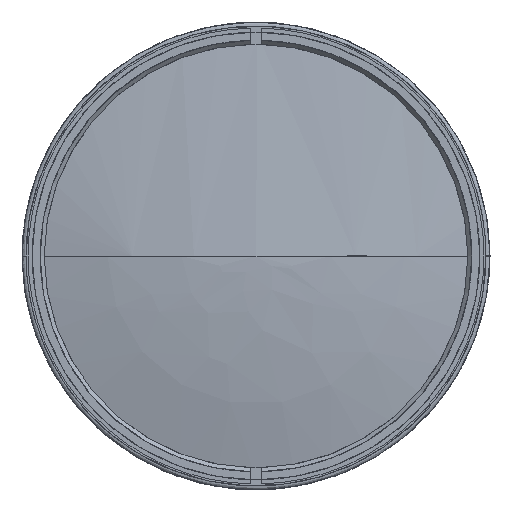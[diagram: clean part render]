
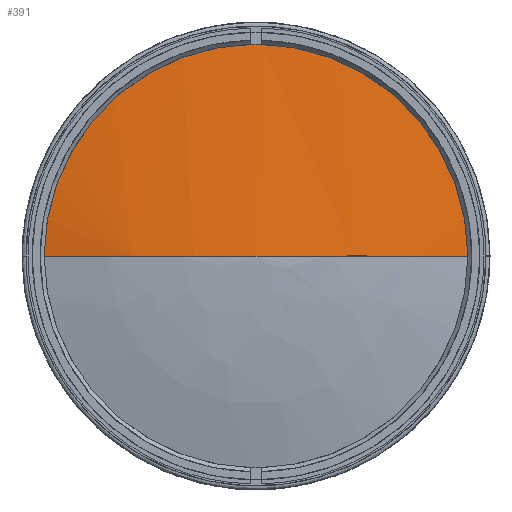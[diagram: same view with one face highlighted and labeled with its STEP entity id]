
A CAD part, left-side view. The second image highlights one B-rep face of the part: STEP entity #391.
In plain terms, the highlighted face is a revolution surface.
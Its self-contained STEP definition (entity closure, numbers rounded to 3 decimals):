
#391 = ADVANCED_FACE('',(#392),#410,.T.);
#392 = FACE_BOUND('',#393,.T.);
#393 = EDGE_LOOP('',(#394,#424,#443,#462));
#394 = ORIENTED_EDGE('',*,*,#395,.F.);
#395 = EDGE_CURVE('',#396,#398,#400,.T.);
#396 = VERTEX_POINT('',#397);
#397 = CARTESIAN_POINT('',(-232.504,0.,
    0.));
#398 = VERTEX_POINT('',#399);
#399 = CARTESIAN_POINT('',(-226.429,-55.,
    0.));
#400 = SURFACE_CURVE('',#401,(#409),.PCURVE_S1.);
#401 = ( BOUNDED_CURVE() B_SPLINE_CURVE(6,(#402,#403,#404,#405,#406,#407
,#408),.UNSPECIFIED.,.F.,.F.) B_SPLINE_CURVE_WITH_KNOTS((7,7),(0.,1.),
.PIECEWISE_BEZIER_KNOTS.) CURVE() GEOMETRIC_REPRESENTATION_ITEM() 
RATIONAL_B_SPLINE_CURVE((1.001,1.,1.,
    1.,1.,1.,1.001)) 
REPRESENTATION_ITEM('') );
#402 = CARTESIAN_POINT('',(-232.504,0.,
    0.));
#403 = CARTESIAN_POINT('',(-232.504,-9.245,
    0.));
#404 = CARTESIAN_POINT('',(-232.097,-18.485,
    0.));
#405 = CARTESIAN_POINT('',(-231.284,-27.701,
    0.));
#406 = CARTESIAN_POINT('',(-230.066,-36.872,
    0.));
#407 = CARTESIAN_POINT('',(-228.446,-45.978,
    0.));
#408 = CARTESIAN_POINT('',(-226.429,-55.,
    0.));
#409 = PCURVE('',#410,#419);
#410 = SURFACE_OF_REVOLUTION('',#411,#416);
#411 = CIRCLE('',#412,252.);
#412 = AXIS2_PLACEMENT_3D('',#413,#414,#415);
#413 = CARTESIAN_POINT('',(19.496,0.,
    0.));
#414 = DIRECTION('',(0.,0.,-1.));
#415 = DIRECTION('',(1.,0.,0.));
#416 = AXIS1_PLACEMENT('',#417,#418);
#417 = CARTESIAN_POINT('',(19.496,0.,0.));
#418 = DIRECTION('',(1.,0.,0.));
#419 = DEFINITIONAL_REPRESENTATION('',(#420),#423);
#420 = B_SPLINE_CURVE_WITH_KNOTS('',1,(#421,#422),.UNSPECIFIED.,.F.,.F.,
  (2,2),(0.,1.),.PIECEWISE_BEZIER_KNOTS.);
#421 = CARTESIAN_POINT('',(6.283,3.142));
#422 = CARTESIAN_POINT('',(6.283,2.922));
#423 = ( GEOMETRIC_REPRESENTATION_CONTEXT(2) 
PARAMETRIC_REPRESENTATION_CONTEXT() REPRESENTATION_CONTEXT('',''
  ) );
#424 = ORIENTED_EDGE('',*,*,#425,.F.);
#425 = EDGE_CURVE('',#426,#396,#428,.T.);
#426 = VERTEX_POINT('',#427);
#427 = CARTESIAN_POINT('',(-232.504,0.,
    0.));
#428 = SURFACE_CURVE('',#429,(#437),.PCURVE_S1.);
#429 = ( BOUNDED_CURVE() B_SPLINE_CURVE(6,(#430,#431,#432,#433,#434,#435
,#436),.UNSPECIFIED.,.F.,.F.) B_SPLINE_CURVE_WITH_KNOTS((7,7),(0.,1.),
.PIECEWISE_BEZIER_KNOTS.) CURVE() GEOMETRIC_REPRESENTATION_ITEM() 
RATIONAL_B_SPLINE_CURVE((1.133,1.036,0.992,
    0.976,0.992,1.036,1.133)) 
REPRESENTATION_ITEM('') );
#430 = CARTESIAN_POINT('',(-232.504,0.,
    0.));
#431 = CARTESIAN_POINT('',(-232.504,0.,
    0.));
#432 = CARTESIAN_POINT('',(-232.504,0.,
    0.));
#433 = CARTESIAN_POINT('',(-232.504,0.,0.)
  );
#434 = CARTESIAN_POINT('',(-232.504,0.,
    0.));
#435 = CARTESIAN_POINT('',(-232.504,0.,
    0.));
#436 = CARTESIAN_POINT('',(-232.504,0.,
    0.));
#437 = PCURVE('',#410,#438);
#438 = DEFINITIONAL_REPRESENTATION('',(#439),#442);
#439 = B_SPLINE_CURVE_WITH_KNOTS('',1,(#440,#441),.UNSPECIFIED.,.F.,.F.,
  (2,2),(0.,1.),.PIECEWISE_BEZIER_KNOTS.);
#440 = CARTESIAN_POINT('',(3.142,3.142));
#441 = CARTESIAN_POINT('',(6.283,3.142));
#442 = ( GEOMETRIC_REPRESENTATION_CONTEXT(2) 
PARAMETRIC_REPRESENTATION_CONTEXT() REPRESENTATION_CONTEXT('',''
  ) );
#443 = ORIENTED_EDGE('',*,*,#444,.F.);
#444 = EDGE_CURVE('',#445,#426,#447,.T.);
#445 = VERTEX_POINT('',#446);
#446 = CARTESIAN_POINT('',(-226.429,55.,
    0.));
#447 = SURFACE_CURVE('',#448,(#456),.PCURVE_S1.);
#448 = ( BOUNDED_CURVE() B_SPLINE_CURVE(6,(#449,#450,#451,#452,#453,#454
,#455),.UNSPECIFIED.,.F.,.F.) B_SPLINE_CURVE_WITH_KNOTS((7,7),(0.,1.),
.PIECEWISE_BEZIER_KNOTS.) CURVE() GEOMETRIC_REPRESENTATION_ITEM() 
RATIONAL_B_SPLINE_CURVE((1.001,1.,1.,
    1.,1.,1.,1.001)) 
REPRESENTATION_ITEM('') );
#449 = CARTESIAN_POINT('',(-226.429,55.,
    0.));
#450 = CARTESIAN_POINT('',(-228.446,45.978,
    0.));
#451 = CARTESIAN_POINT('',(-230.066,36.872,
    0.));
#452 = CARTESIAN_POINT('',(-231.284,27.701,
    0.));
#453 = CARTESIAN_POINT('',(-232.097,18.485,
    0.));
#454 = CARTESIAN_POINT('',(-232.504,9.245,
    0.));
#455 = CARTESIAN_POINT('',(-232.504,0.,
    0.));
#456 = PCURVE('',#410,#457);
#457 = DEFINITIONAL_REPRESENTATION('',(#458),#461);
#458 = B_SPLINE_CURVE_WITH_KNOTS('',1,(#459,#460),.UNSPECIFIED.,.F.,.F.,
  (2,2),(0.,1.),.PIECEWISE_BEZIER_KNOTS.);
#459 = CARTESIAN_POINT('',(3.142,2.922));
#460 = CARTESIAN_POINT('',(3.142,3.142));
#461 = ( GEOMETRIC_REPRESENTATION_CONTEXT(2) 
PARAMETRIC_REPRESENTATION_CONTEXT() REPRESENTATION_CONTEXT('',''
  ) );
#462 = ORIENTED_EDGE('',*,*,#463,.F.);
#463 = EDGE_CURVE('',#398,#445,#464,.T.);
#464 = SURFACE_CURVE('',#465,(#476),.PCURVE_S1.);
#465 = B_SPLINE_CURVE_WITH_KNOTS('',9,(#466,#467,#468,#469,#470,#471,
    #472,#473,#474,#475),.UNSPECIFIED.,.F.,.F.,(10,10),(0.,1.),
  .PIECEWISE_BEZIER_KNOTS.);
#466 = CARTESIAN_POINT('',(-226.429,-55.,
    0.));
#467 = CARTESIAN_POINT('',(-226.429,-55.,
    19.199));
#468 = CARTESIAN_POINT('',(-226.429,-47.461,
    38.397));
#469 = CARTESIAN_POINT('',(-226.429,-32.382,
    54.211));
#470 = CARTESIAN_POINT('',(-226.429,-11.537,
    63.263));
#471 = CARTESIAN_POINT('',(-226.429,11.537,
    63.263));
#472 = CARTESIAN_POINT('',(-226.429,32.382,
    54.211));
#473 = CARTESIAN_POINT('',(-226.429,47.461,
    38.397));
#474 = CARTESIAN_POINT('',(-226.429,55.,
    19.199));
#475 = CARTESIAN_POINT('',(-226.429,55.,
    0.));
#476 = PCURVE('',#410,#477);
#477 = DEFINITIONAL_REPRESENTATION('',(#478),#481);
#478 = B_SPLINE_CURVE_WITH_KNOTS('',1,(#479,#480),.UNSPECIFIED.,.F.,.F.,
  (2,2),(0.,1.),.PIECEWISE_BEZIER_KNOTS.);
#479 = CARTESIAN_POINT('',(6.283,2.922));
#480 = CARTESIAN_POINT('',(3.142,2.922));
#481 = ( GEOMETRIC_REPRESENTATION_CONTEXT(2) 
PARAMETRIC_REPRESENTATION_CONTEXT() REPRESENTATION_CONTEXT('',''
  ) );
